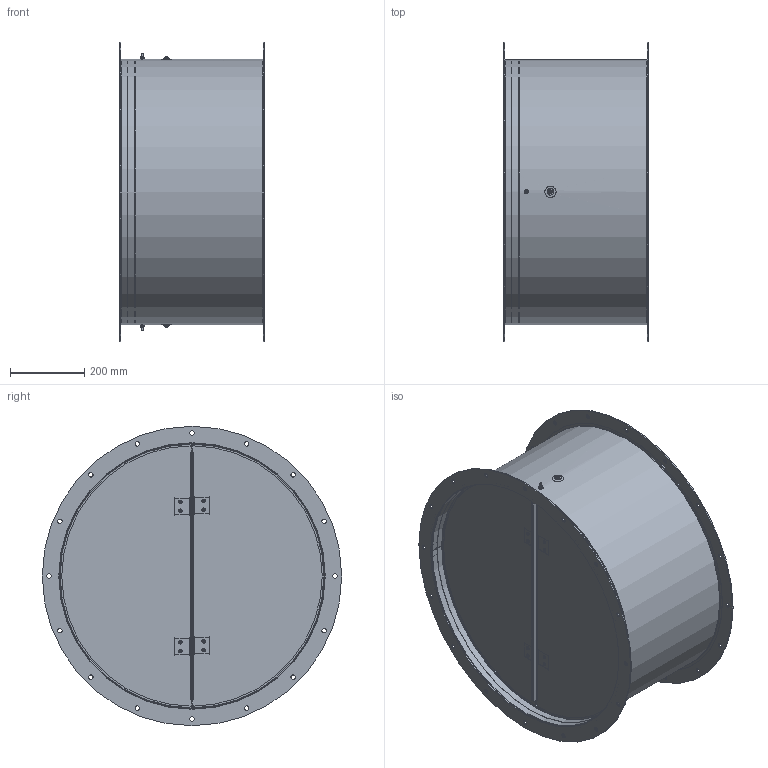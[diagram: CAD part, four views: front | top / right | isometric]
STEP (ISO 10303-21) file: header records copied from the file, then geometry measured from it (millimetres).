
FILE_DESCRIPTION(/* description */ ('Backdraft shutter KZD-1100 SE'),/* implementation_level */ '2;1');
FILE_NAME(/* name */ 'Y:\VaultRobocze\Designs\2\0\04\900 580\2 004 900 580 1.stp',/* time_stamp */ '2018-03-30T10:37:55+02:00',/* author */ ('TomaszCie'),/* organization */ (''),/* preprocessor_version */ 'ST-DEVELOPER v16.13',/* originating_system */ 'Autodesk Inventor 2018',/* authorisation */ '');
FILE_SCHEMA (('AUTOMOTIVE_DESIGN { 1 0 10303 214 3 1 1 }'));
Length unit declared in the file: millimetre
Products named in the file (19): 2 004 900 580 1; DIN 6799 - 5; DIN 934 - M6; DIN 7337 - A4,8 x 8,5 x 3 BRALO; DIN 985 - M6; 2 004 900 366; 2 004 901 580; 2 004 902 381; 2 004 901 581; 2 004 901 583; 2 004 901 582; 2 004 900 381 1; 2 004 900 382 1; DIN 933 - M6  x 30; DIN 439 - M6; DIN 9021 - 6,4; DIN 125 - A 6,4; Wibroizolator RFHT; Sprężyna skrętna fi1 EN10270-
1 L=26mm, H=50mm D=fi6
Assembly tree (41 placements, depth 3):
  2 004 900 580 1
    DIN 6799 - 5  x2
    DIN 934 - M6
    DIN 125 - A 6,4  x5
    DIN 7337 - A4,8 x 8,5 x 3 BRALO  x8
    DIN 985 - M6  x2
    2 004 900 366  x4
    2 004 901 580
      2 004 902 381  x2
      2 004 901 581
      2 004 901 583
      2 004 901 582
    2 004 900 381 1
    2 004 900 382 1  x2
    DIN 933 - M6  x 30  x2
    DIN 439 - M6  x2
    DIN 9021 - 6,4  x2
    Wibroizolator RFHT  x2
    Sprężyna skrętna fi1 EN10270-
1 L=26mm, H=50mm D=fi6  x2
Bounding box: 390 x 806 x 806 mm (x, y, z)
Volume: 1671749.1 mm3; surface area: 3279674.6 mm2
Topology: 44 solids, 44 shells, 588 faces, 1322 edges, 848 vertices
Faces by surface type: plane 293, cylinder 231, cone 40, torus 14, bspline 10
Full cylindrical faces by diameter (mm): 1 x4, 4.8 x8, 4.9 x8, 4.917 x5, 5 x2, 5.2 x8, 5.459 x2, 6 x5, 6.4 x7, 6.5 x10, 8.1 x2, 8.5 x2, 8.7 x2, 8.9 x2, 9.5 x8, 12 x37, 18 x2, 30 x2, 717 x2, 806 x2
Entity records: 10712 total; most frequent: CARTESIAN_POINT 4064, DIRECTION 1339, ORIENTED_EDGE 1040, AXIS2_PLACEMENT_3D 561, EDGE_CURVE 520, EDGE_LOOP 415, VERTEX_POINT 371, FACE_OUTER_BOUND 266
